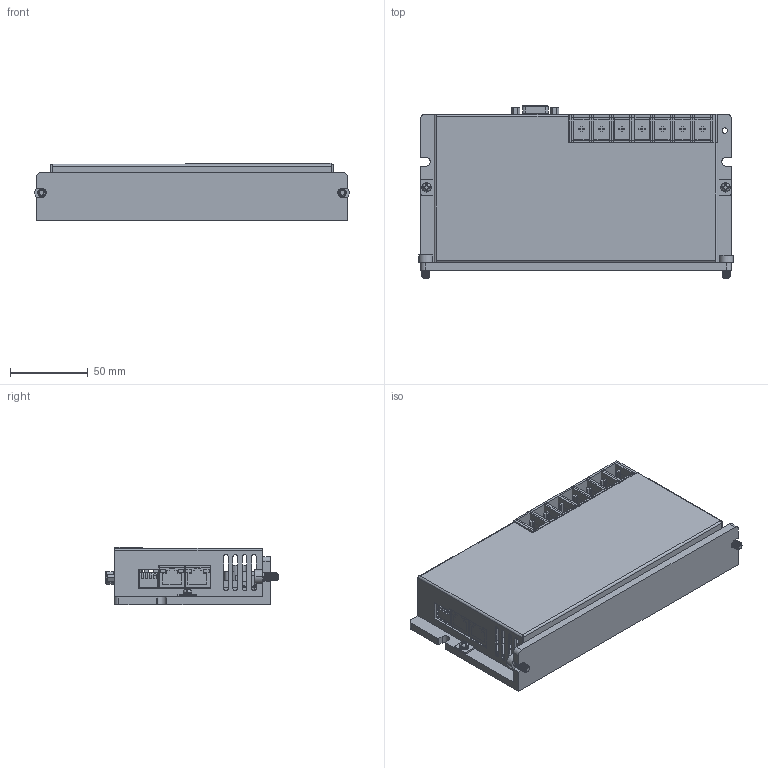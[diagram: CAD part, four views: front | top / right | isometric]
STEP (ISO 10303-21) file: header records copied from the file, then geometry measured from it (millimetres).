
FILE_DESCRIPTION((''),'2;1');
FILE_NAME('FD144S_ASM','2019-03-19T17:33:28',('RD0060'),(''),'CREO PARAMETRIC BY PTC INC, 2016390','CREO PARAMETRIC BY PTC INC, 2016390','');
FILE_SCHEMA(('CONFIG_CONTROL_DESIGN'));
Length unit declared in the file: millimetre
Products named in the file (282): PCB-143A; DINKLE_ESKW116V_07P; DINKLE-0156-2512L; DINKLE-0156-2512L_ASM; WEBKOU_15; BOMA_4; ASSY_PCA_BOTTOM_ASM; FD144HT; FD144HS; M300; M5X10; SCREW_M3X6; 000; 9ZHEN-DAOLISHI_2; UID__1820; PLACEMENTOUTLINE-2027; SUBMODEL-NOMODELFORPART_1206C_4_ASM; SUBMODEL-1206C_4266364509_PART_ASM; PLACEMENTOUTLINE-2049; SUBMODEL-NOMODELFORPART_PAD_M3__ASM; SUBMODEL-PAD_M3_D330_SL_4012703_ASM; PLACEMENTOUTLINE-2071; SUBMODEL-NOMODELFORPART_IND1014_ASM; SUBMODEL-IND1014_P50D105H145_76_ASM; PLACEMENTOUTLINE-2093; SUBMODEL-NOMODELFORPART_0805C_3_ASM; SUBMODEL-0805C_3822772437_PART_ASM; PLACEMENTOUTLINE-2115; SUBMODEL-NOMODELFORPART_PG_TDSO_ASM; SUBMODEL-PG_TDSON8_P127L51W61H1_ASM; PLACEMENTOUTLINE-2147; SUBMODEL-NOMODELFORPART_06-2140_ASM; SUBMODEL-0603R_2411962555_PART_ASM; PLACEMENTOUTLINE-2177; SUBMODEL-NOMODELFORPART_06-2170_ASM; SUBMODEL-0603C_2411962555_PART_ASM; PLACEMENTOUTLINE-2285; SUBMODEL-NOMODELFORPART_SO-2278_ASM; SUBMODEL-SOD-123_3938599008_PAR_ASM; PLACEMENTOUTLINE-2435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
Assembly tree (838 placements, depth 7):
  FD144S_ASM
    ASSY_PCA_BOTTOM_ASM
      PCB-143A
      DINKLE_ESKW116V_07P
      DINKLE-0156-2512L_ASM
        DINKLE-0156-2512L
      WEBKOU_15  x3
      BOMA_4
    FD144HT
    FD144HS
    M300  x8
    M5X10  x2
    SCREW_M3X6  x2
    000
    9ZHEN-DAOLISHI_2
    ASM0002_ASM
      PRODUCTROOTMODEL_ASM
        DESIGNROOTMODEL_ASM
          UID__1820
          SUBMODEL-1206C_4266364509_PART_ASM  x18
            SUBMODEL-NOMODELFORPART_1206C_4_ASM
              PLACEMENTOUTLINE-2027
          SUBMODEL-PAD_M3_D330_SL_4012703_ASM  x3
            SUBMODEL-NOMODELFORPART_PAD_M3__ASM
              PLACEMENTOUTLINE-2049
          SUBMODEL-IND1014_P50D105H145_76_ASM
            SUBMODEL-NOMODELFORPART_IND1014_ASM
              PLACEMENTOUTLINE-2071
          SUBMODEL-0805C_3822772437_PART_ASM  x16
            SUBMODEL-NOMODELFORPART_0805C_3_ASM
              PLACEMENTOUTLINE-2093
          SUBMODEL-PG_TDSON8_P127L51W61H1_ASM  x28
            SUBMODEL-NOMODELFORPART_PG_TDSO_ASM
              PLACEMENTOUTLINE-2115
          SUBMODEL-0603R_2411962555_PART_ASM  x168
            SUBMODEL-NOMODELFORPART_06-2140_ASM
              PLACEMENTOUTLINE-2147
          SUBMODEL-0603C_2411962555_PART_ASM  x96
            SUBMODEL-NOMODELFORPART_06-2170_ASM
              PLACEMENTOUTLINE-2177
          SUBMODEL-SOD-123_3938599008_PAR_ASM  x7
            SUBMODEL-NOMODELFORPART_SO-2278_ASM
              PLACEMENTOUTLINE-2285
          SUBMODEL-SOT23-5_P95L300W280H12_ASM
            SUBMODEL-NOMODELFORPART_SOT23-5_ASM
              PLACEMENTOUTLINE-2435
          SUBMODEL-1206R_4266364509_PART_ASM  x14
            SUBMODEL-NOMODELFORPART_1206R_4_ASM
              PLACEMENTOUTLINE-2469
          SUBMODEL-SOIC4_P254P70L36W44W70_ASM  x2
            SUBMODEL-NOMODELFORPART_SOIC4_P_ASM
              PLACEMENTOUTLINE-2491
          SUBMODEL-CAP_X2_P10_L13W5H11_32_ASM  x3
            SUBMODEL-NOMODELFORPART_CAP_X2__ASM
              PLACEMENTOUTLINE-2515
          SUBMODEL-HDR7_P130L940W180H217__ASM
            SUBMODEL-NOMODELFORPART_HDR7_P1_ASM
              PLACEMENTOUTLINE-2539
              PLACEMENTOUTLINE-2547
              PLACEMENTOUTLINE-2555
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Bounding box: 202.12 x 111.13 x 37 mm (x, y, z)
Volume: 341176.3 mm3; surface area: 273894.9 mm2
Topology: 703 solids, 703 shells, 5255 faces, 11125 edges, 7362 vertices
Faces by surface type: plane 4701, cylinder 450, bspline 64, cone 24, torus 16
Entity records: 64198 total; most frequent: CARTESIAN_POINT 13841, DIRECTION 11576, ORIENTED_EDGE 7674, AXIS2_PLACEMENT_3D 4269, EDGE_CURVE 3837, VECTOR 3038, LINE 3038, VERTEX_POINT 2521
